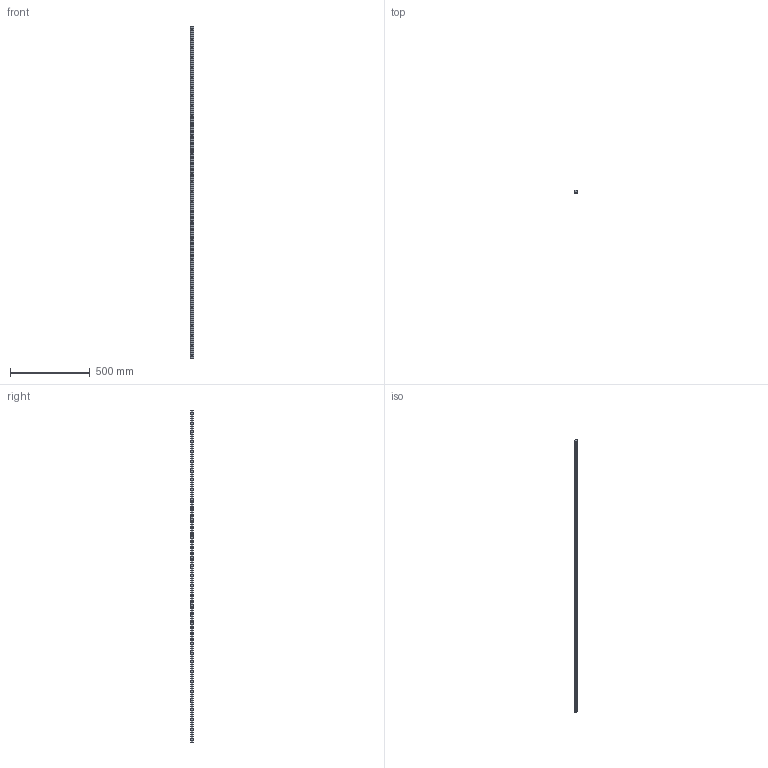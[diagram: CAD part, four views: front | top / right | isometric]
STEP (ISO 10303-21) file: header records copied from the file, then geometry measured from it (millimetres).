
FILE_DESCRIPTION (( 'STEP AP203' ), '1' );
FILE_NAME ('L1016.BL20-2080.step', '2019-06-12T11:51:40', ( '' ), ( '' ), 'SwSTEP 2.0', 'SolidWorks 2017', '' );
FILE_SCHEMA (( 'CONFIG_CONTROL_DESIGN' ));
Length unit declared in the file: millimetre
Products named in the file (1): L1016.BL20-2080
Bounding box: 20 x 16.3 x 2080 mm (x, y, z)
Volume: 578104.5 mm3; surface area: 167509.2 mm2
Topology: 1 solids, 1 shells, 201 faces, 492 edges, 328 vertices
Faces by surface type: cylinder 144, plane 57
Entity records: 6291 total; most frequent: DIRECTION 1184, CARTESIAN_POINT 1022, ORIENTED_EDGE 984, EDGE_CURVE 492, AXIS2_PLACEMENT_3D 490, VERTEX_POINT 328, EDGE_LOOP 306, CIRCLE 288
